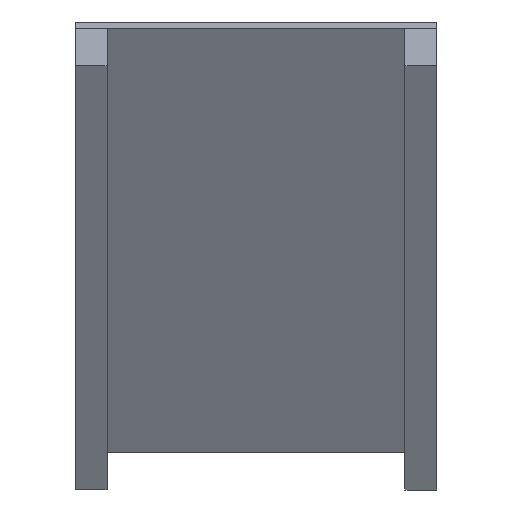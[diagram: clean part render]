
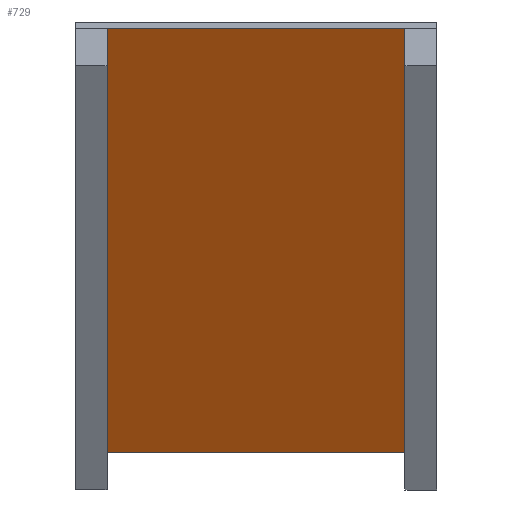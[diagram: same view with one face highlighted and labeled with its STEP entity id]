
A CAD part, top view. The second image highlights one B-rep face of the part: STEP entity #729.
In plain terms, the highlighted planar face has unit normal (0, -0.5, 0.866) as drawn and (0, 0, 1) by its records, which use the part's own axes.
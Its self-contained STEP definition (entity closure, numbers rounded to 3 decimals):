
#415 = VERTEX_POINT('',#416);
#416 = CARTESIAN_POINT('',(0.,0.,15.875));
#423 = PLANE('',#424);
#424 = AXIS2_PLACEMENT_3D('',#425,#426,#427);
#425 = CARTESIAN_POINT('',(0.,0.,0.));
#426 = DIRECTION('',(0.,1.,0.));
#427 = DIRECTION('',(1.,0.,0.));
#435 = PLANE('',#436);
#436 = AXIS2_PLACEMENT_3D('',#437,#438,#439);
#437 = CARTESIAN_POINT('',(0.,584.2,0.));
#438 = DIRECTION('',(1.,0.,0.));
#439 = DIRECTION('',(0.,-1.,0.));
#447 = EDGE_CURVE('',#415,#448,#450,.T.);
#448 = VERTEX_POINT('',#449);
#449 = CARTESIAN_POINT('',(431.8,0.,15.875));
#450 = SURFACE_CURVE('',#451,(#455,#462),.PCURVE_S1.);
#451 = LINE('',#452,#453);
#452 = CARTESIAN_POINT('',(0.,0.,15.875));
#453 = VECTOR('',#454,1.);
#454 = DIRECTION('',(1.,0.,0.));
#455 = PCURVE('',#423,#456);
#456 = DEFINITIONAL_REPRESENTATION('',(#457),#461);
#457 = LINE('',#458,#459);
#458 = CARTESIAN_POINT('',(0.,-15.875));
#459 = VECTOR('',#460,1.);
#460 = DIRECTION('',(1.,0.));
#461 = ( GEOMETRIC_REPRESENTATION_CONTEXT(2) 
PARAMETRIC_REPRESENTATION_CONTEXT() REPRESENTATION_CONTEXT('2D SPACE',''
  ) );
#462 = PCURVE('',#463,#468);
#463 = PLANE('',#464);
#464 = AXIS2_PLACEMENT_3D('',#465,#466,#467);
#465 = CARTESIAN_POINT('',(215.9,292.1,15.875));
#466 = DIRECTION('',(0.,0.,1.));
#467 = DIRECTION('',(1.,0.,0.));
#468 = DEFINITIONAL_REPRESENTATION('',(#469),#473);
#469 = LINE('',#470,#471);
#470 = CARTESIAN_POINT('',(-215.9,-292.1));
#471 = VECTOR('',#472,1.);
#472 = DIRECTION('',(1.,0.));
#473 = ( GEOMETRIC_REPRESENTATION_CONTEXT(2) 
PARAMETRIC_REPRESENTATION_CONTEXT() REPRESENTATION_CONTEXT('2D SPACE',''
  ) );
#491 = PLANE('',#492);
#492 = AXIS2_PLACEMENT_3D('',#493,#494,#495);
#493 = CARTESIAN_POINT('',(431.8,0.,0.));
#494 = DIRECTION('',(-1.,0.,0.));
#495 = DIRECTION('',(0.,1.,0.));
#533 = EDGE_CURVE('',#448,#534,#536,.T.);
#534 = VERTEX_POINT('',#535);
#535 = CARTESIAN_POINT('',(431.8,584.2,15.875));
#536 = SURFACE_CURVE('',#537,(#541,#548),.PCURVE_S1.);
#537 = LINE('',#538,#539);
#538 = CARTESIAN_POINT('',(431.8,0.,15.875));
#539 = VECTOR('',#540,1.);
#540 = DIRECTION('',(0.,1.,0.));
#541 = PCURVE('',#491,#542);
#542 = DEFINITIONAL_REPRESENTATION('',(#543),#547);
#543 = LINE('',#544,#545);
#544 = CARTESIAN_POINT('',(0.,-15.875));
#545 = VECTOR('',#546,1.);
#546 = DIRECTION('',(1.,0.));
#547 = ( GEOMETRIC_REPRESENTATION_CONTEXT(2) 
PARAMETRIC_REPRESENTATION_CONTEXT() REPRESENTATION_CONTEXT('2D SPACE',''
  ) );
#548 = PCURVE('',#463,#549);
#549 = DEFINITIONAL_REPRESENTATION('',(#550),#554);
#550 = LINE('',#551,#552);
#551 = CARTESIAN_POINT('',(215.9,-292.1));
#552 = VECTOR('',#553,1.);
#553 = DIRECTION('',(0.,1.));
#554 = ( GEOMETRIC_REPRESENTATION_CONTEXT(2) 
PARAMETRIC_REPRESENTATION_CONTEXT() REPRESENTATION_CONTEXT('2D SPACE',''
  ) );
#572 = PLANE('',#573);
#573 = AXIS2_PLACEMENT_3D('',#574,#575,#576);
#574 = CARTESIAN_POINT('',(431.8,584.2,0.));
#575 = DIRECTION('',(0.,-1.,0.));
#576 = DIRECTION('',(-1.,0.,0.));
#609 = EDGE_CURVE('',#534,#610,#612,.T.);
#610 = VERTEX_POINT('',#611);
#611 = CARTESIAN_POINT('',(0.,584.2,15.875));
#612 = SURFACE_CURVE('',#613,(#617,#624),.PCURVE_S1.);
#613 = LINE('',#614,#615);
#614 = CARTESIAN_POINT('',(431.8,584.2,15.875));
#615 = VECTOR('',#616,1.);
#616 = DIRECTION('',(-1.,0.,0.));
#617 = PCURVE('',#572,#618);
#618 = DEFINITIONAL_REPRESENTATION('',(#619),#623);
#619 = LINE('',#620,#621);
#620 = CARTESIAN_POINT('',(0.,-15.875));
#621 = VECTOR('',#622,1.);
#622 = DIRECTION('',(1.,0.));
#623 = ( GEOMETRIC_REPRESENTATION_CONTEXT(2) 
PARAMETRIC_REPRESENTATION_CONTEXT() REPRESENTATION_CONTEXT('2D SPACE',''
  ) );
#624 = PCURVE('',#463,#625);
#625 = DEFINITIONAL_REPRESENTATION('',(#626),#630);
#626 = LINE('',#627,#628);
#627 = CARTESIAN_POINT('',(215.9,292.1));
#628 = VECTOR('',#629,1.);
#629 = DIRECTION('',(-1.,0.));
#630 = ( GEOMETRIC_REPRESENTATION_CONTEXT(2) 
PARAMETRIC_REPRESENTATION_CONTEXT() REPRESENTATION_CONTEXT('2D SPACE',''
  ) );
#680 = EDGE_CURVE('',#610,#415,#681,.T.);
#681 = SURFACE_CURVE('',#682,(#686,#693),.PCURVE_S1.);
#682 = LINE('',#683,#684);
#683 = CARTESIAN_POINT('',(0.,584.2,15.875));
#684 = VECTOR('',#685,1.);
#685 = DIRECTION('',(0.,-1.,0.));
#686 = PCURVE('',#435,#687);
#687 = DEFINITIONAL_REPRESENTATION('',(#688),#692);
#688 = LINE('',#689,#690);
#689 = CARTESIAN_POINT('',(0.,-15.875));
#690 = VECTOR('',#691,1.);
#691 = DIRECTION('',(1.,0.));
#692 = ( GEOMETRIC_REPRESENTATION_CONTEXT(2) 
PARAMETRIC_REPRESENTATION_CONTEXT() REPRESENTATION_CONTEXT('2D SPACE',''
  ) );
#693 = PCURVE('',#463,#694);
#694 = DEFINITIONAL_REPRESENTATION('',(#695),#699);
#695 = LINE('',#696,#697);
#696 = CARTESIAN_POINT('',(-215.9,292.1));
#697 = VECTOR('',#698,1.);
#698 = DIRECTION('',(0.,-1.));
#699 = ( GEOMETRIC_REPRESENTATION_CONTEXT(2) 
PARAMETRIC_REPRESENTATION_CONTEXT() REPRESENTATION_CONTEXT('2D SPACE',''
  ) );
#729 = ADVANCED_FACE('',(#730),#463,.T.);
#730 = FACE_BOUND('',#731,.T.);
#731 = EDGE_LOOP('',(#732,#733,#734,#735));
#732 = ORIENTED_EDGE('',*,*,#447,.T.);
#733 = ORIENTED_EDGE('',*,*,#533,.T.);
#734 = ORIENTED_EDGE('',*,*,#609,.T.);
#735 = ORIENTED_EDGE('',*,*,#680,.T.);
